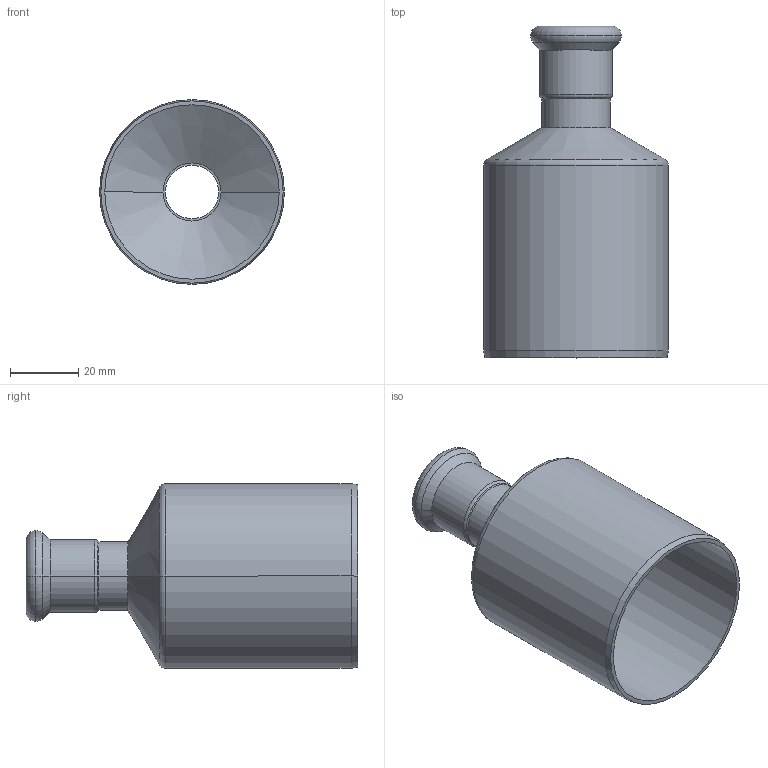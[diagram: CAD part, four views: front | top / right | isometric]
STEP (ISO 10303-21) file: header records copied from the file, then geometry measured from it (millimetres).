
FILE_DESCRIPTION(('CoCreate Modeling STEP Export'),'2;1');
FILE_NAME('C1407 18x54.stp','2014-11-07T15:32:51',(''),(''),'CoCreate Modeling STEP processor for AP214 (Solid Model)','CoCreate Modeling 17.00A 17-Jun-2010 (C) Parametric Technology GmbH','');
FILE_SCHEMA(('AUTOMOTIVE_DESIGN { 1 0 10303 214 1 1 1 1 }'));
Length unit declared in the file: millimetre
Products named in the file (1): C1407_18x54
Bounding box: 54 x 97 x 54 mm (x, y, z)
Volume: 21326.4 mm3; surface area: 27502.9 mm2
Topology: 1 solids, 1 shells, 39 faces, 78 edges, 44 vertices
Faces by surface type: cylinder 16, cone 10, torus 8, plane 5
Entity records: 838 total; most frequent: ORIENTED_EDGE 156, DIRECTION 130, CARTESIAN_POINT 122, EDGE_CURVE 78, AXIS2_PLACEMENT_3D 52, VERTEX_POINT 44, EDGE_LOOP 44, FACE_OUTER_BOUND 39
